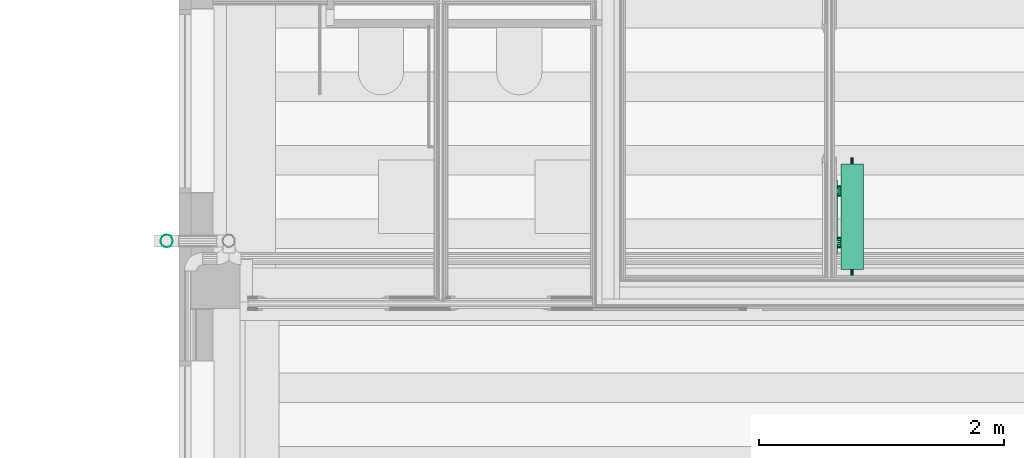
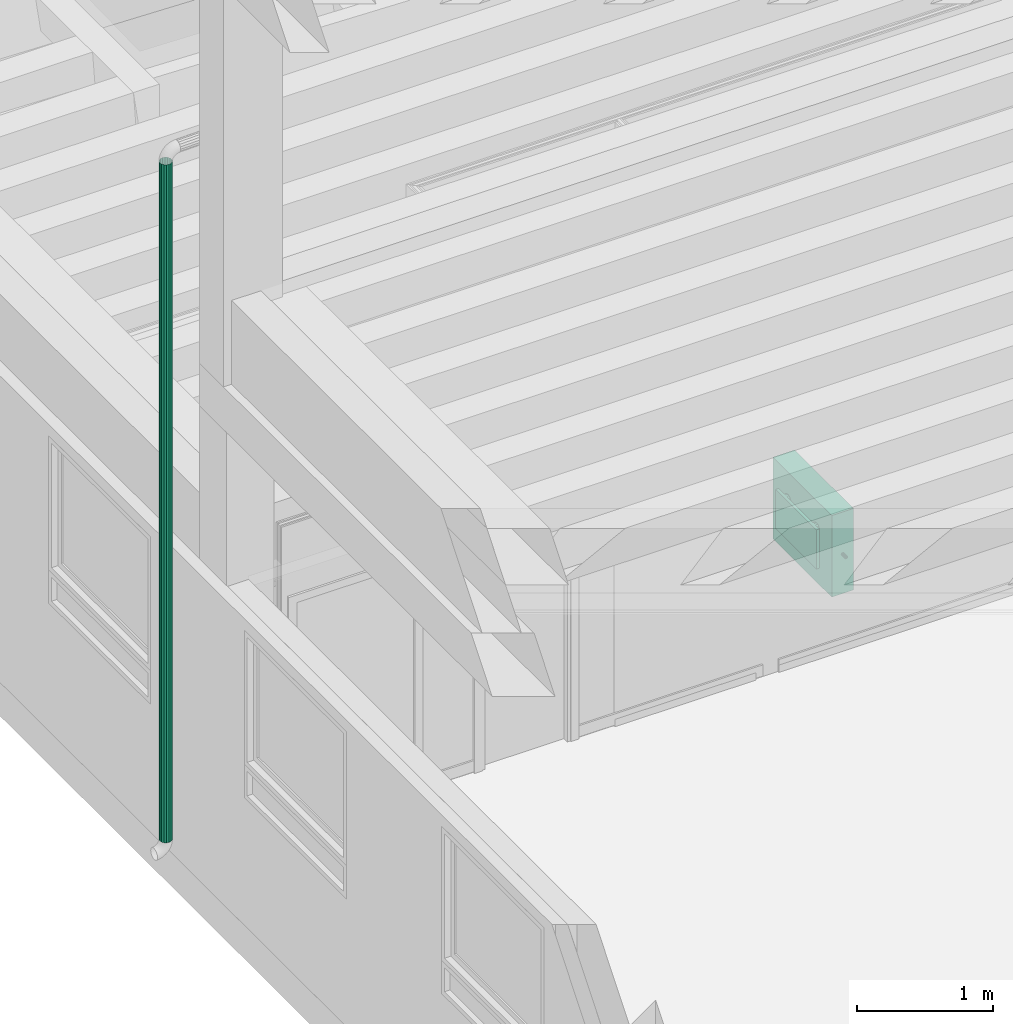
# One storey, part 48 of 108: 1 flow segment, 1 flow terminal.
"""IFC2X3 building model written with IfcOpenShell, lengths in metres."""

from ifc_helpers import new_model, entity, si_unit, converted_unit, derived_unit, money_unit, direction, frame, origin_with_axes, place, context, subcontext, project, spatial, open_shell, faceted_brep, surface_model, material, type_object, element, save


model = new_model("IFC2X3")

# Units and contexts
model_context = context("Model", 3, precision=1e-05, world=origin_with_axes(), true_north=direction((0.0, 1.0)))
body_context = subcontext(model_context, "Body", "Model", "MODEL_VIEW", scale=1.0)
ifc_project = project(units=[si_unit("LENGTHUNIT", "METRE"), si_unit("AREAUNIT", "SQUARE_METRE"), si_unit("VOLUMEUNIT", "CUBIC_METRE"), si_unit("ABSORBEDDOSEUNIT", "GRAY"), si_unit("AMOUNTOFSUBSTANCEUNIT", "MOLE"), si_unit("DOSEEQUIVALENTUNIT", "SIEVERT"), si_unit("ELECTRICCAPACITANCEUNIT", "FARAD"), si_unit("ELECTRICCHARGEUNIT", "COULOMB"), si_unit("ELECTRICCONDUCTANCEUNIT", "SIEMENS"), si_unit("ELECTRICCURRENTUNIT", "AMPERE"), si_unit("ELECTRICRESISTANCEUNIT", "OHM"), si_unit("ELECTRICVOLTAGEUNIT", "VOLT"), si_unit("ENERGYUNIT", "JOULE"), si_unit("FORCEUNIT", "NEWTON"), si_unit("FREQUENCYUNIT", "HERTZ"), si_unit("ILLUMINANCEUNIT", "LUX"), si_unit("INDUCTANCEUNIT", "HENRY"), si_unit("LUMINOUSFLUXUNIT", "LUMEN"), si_unit("LUMINOUSINTENSITYUNIT", "CANDELA"), si_unit("MAGNETICFLUXDENSITYUNIT", "TESLA"), si_unit("MAGNETICFLUXUNIT", "WEBER"), si_unit("MASSUNIT", "GRAM"), converted_unit("PLANEANGLEUNIT", "degree", entity("IfcReal", 0.0174532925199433), si_unit("PLANEANGLEUNIT", "RADIAN"), dimensions=[0, 0, 0, 0, 0, 0, 0]), si_unit("POWERUNIT", "WATT"), si_unit("PRESSUREUNIT", "PASCAL"), si_unit("RADIOACTIVITYUNIT", "BECQUEREL"), si_unit("SOLIDANGLEUNIT", "STERADIAN"), si_unit("THERMODYNAMICTEMPERATUREUNIT", "KELVIN"), si_unit("TIMEUNIT", "SECOND"), derived_unit("ACCELERATIONUNIT", [(si_unit("LENGTHUNIT", "METRE"), 1), (si_unit("TIMEUNIT", "SECOND"), -2)]), derived_unit("ANGULARVELOCITYUNIT", [(converted_unit("PLANEANGLEUNIT", "degree", entity("IfcReal", 0.0174532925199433), si_unit("PLANEANGLEUNIT", "RADIAN"), dimensions=[0, 0, 0, 0, 0, 0, 0]), 1), (si_unit("TIMEUNIT", "SECOND"), -1)]), derived_unit("CURVATUREUNIT", [(converted_unit("PLANEANGLEUNIT", "degree", entity("IfcReal", 0.0174532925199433), si_unit("PLANEANGLEUNIT", "RADIAN"), dimensions=[0, 0, 0, 0, 0, 0, 0]), 1), (si_unit("LENGTHUNIT", "METRE"), -1)]), derived_unit("DYNAMICVISCOSITYUNIT", [(si_unit("PRESSUREUNIT", "PASCAL"), 1), (si_unit("TIMEUNIT", "SECOND"), 1)]), derived_unit("HEATFLUXDENSITYUNIT", [(si_unit("POWERUNIT", "WATT"), 1), (si_unit("LENGTHUNIT", "METRE"), -2)]), derived_unit("HEATINGVALUEUNIT", [(si_unit("ENERGYUNIT", "JOULE"), 1), (si_unit("MASSUNIT", "GRAM"), -1)]), derived_unit("INTEGERCOUNTRATEUNIT", [(si_unit("TIMEUNIT", "SECOND"), -1)]), derived_unit("IONCONCENTRATIONUNIT", [(si_unit("MASSUNIT", "GRAM"), 1), (si_unit("VOLUMEUNIT", "CUBIC_METRE"), -1)]), derived_unit("ISOTHERMALMOISTURECAPACITYUNIT", [(si_unit("VOLUMEUNIT", "CUBIC_METRE"), 1), (si_unit("MASSUNIT", "GRAM"), -1)]), derived_unit("KINEMATICVISCOSITYUNIT", [(si_unit("AREAUNIT", "SQUARE_METRE"), 1), (si_unit("TIMEUNIT", "SECOND"), -1)]), derived_unit("LINEARFORCEUNIT", [(si_unit("FORCEUNIT", "NEWTON"), 1), (si_unit("LENGTHUNIT", "METRE"), -1)]), derived_unit("LINEARMOMENTUNIT", [(si_unit("FORCEUNIT", "NEWTON"), 1), (si_unit("LENGTHUNIT", "METRE"), -1)]), derived_unit("LINEARSTIFFNESSUNIT", [(si_unit("FORCEUNIT", "NEWTON"), 1), (si_unit("LENGTHUNIT", "METRE"), -1)]), derived_unit("LINEARVELOCITYUNIT", [(si_unit("LENGTHUNIT", "METRE"), 1), (si_unit("TIMEUNIT", "SECOND"), -1)]), derived_unit("LUMINOUSINTENSITYDISTRIBUTIONUNIT", [(si_unit("LUMINOUSINTENSITYUNIT", "CANDELA"), 1), (si_unit("LUMINOUSFLUXUNIT", "LUMEN"), -1)]), derived_unit("MASSDENSITYUNIT", [(si_unit("MASSUNIT", "GRAM"), 1), (si_unit("VOLUMEUNIT", "CUBIC_METRE"), -1)]), derived_unit("MASSFLOWRATEUNIT", [(si_unit("MASSUNIT", "GRAM"), 1), (si_unit("TIMEUNIT", "SECOND"), -1)]), derived_unit("MASSPERLENGTHUNIT", [(si_unit("MASSUNIT", "GRAM"), 1), (si_unit("LENGTHUNIT", "METRE"), -1)]), derived_unit("MODULUSOFELASTICITYUNIT", [(si_unit("FORCEUNIT", "NEWTON"), 1), (si_unit("AREAUNIT", "SQUARE_METRE"), -1)]), derived_unit("MODULUSOFLINEARSUBGRADEREACTIONUNIT", [(si_unit("FORCEUNIT", "NEWTON"), 1), (si_unit("LENGTHUNIT", "METRE"), -2)]), derived_unit("MODULUSOFROTATIONALSUBGRADEREACTIONUNIT", [(si_unit("FORCEUNIT", "NEWTON"), 1), (si_unit("LENGTHUNIT", "METRE"), 1)]), derived_unit("MODULUSOFSUBGRADEREACTIONUNIT", [(si_unit("FORCEUNIT", "NEWTON"), 1), (si_unit("VOLUMEUNIT", "CUBIC_METRE"), -1)]), derived_unit("MOISTUREDIFFUSIVITYUNIT", [(si_unit("VOLUMEUNIT", "CUBIC_METRE"), 1), (si_unit("TIMEUNIT", "SECOND"), -1)]), derived_unit("MOLECULARWEIGHTUNIT", [(si_unit("MASSUNIT", "GRAM"), 1), (si_unit("AMOUNTOFSUBSTANCEUNIT", "MOLE"), -1)]), derived_unit("PLANARFORCEUNIT", [(si_unit("FORCEUNIT", "NEWTON"), 1), (si_unit("LENGTHUNIT", "METRE"), -2)]), derived_unit("ROTATIONALFREQUENCYUNIT", [(si_unit("TIMEUNIT", "SECOND"), -1)]), derived_unit("ROTATIONALMASSUNIT", [(si_unit("MASSUNIT", "GRAM"), 1), (si_unit("LENGTHUNIT", "METRE"), 2)]), derived_unit("ROTATIONALSTIFFNESSUNIT", [(si_unit("FORCEUNIT", "NEWTON"), 1), (si_unit("LENGTHUNIT", "METRE"), 1), (converted_unit("PLANEANGLEUNIT", "degree", entity("IfcReal", 0.0174532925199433), si_unit("PLANEANGLEUNIT", "RADIAN"), dimensions=[0, 0, 0, 0, 0, 0, 0]), -1)]), derived_unit("SECTIONAREAINTEGRALUNIT", [(si_unit("LENGTHUNIT", "METRE"), 5)]), derived_unit("SECTIONMODULUSUNIT", [(si_unit("LENGTHUNIT", "METRE"), 3)]), derived_unit("SHEARMODULUSUNIT", [(si_unit("FORCEUNIT", "NEWTON"), 1), (si_unit("AREAUNIT", "SQUARE_METRE"), -1)]), derived_unit("SOUNDPOWERUNIT", [(si_unit("ENERGYUNIT", "JOULE"), 1), (si_unit("TIMEUNIT", "SECOND"), -1)]), derived_unit("SPECIFICHEATCAPACITYUNIT", [(si_unit("FORCEUNIT", "NEWTON"), 1), (si_unit("MASSUNIT", "GRAM"), -1), (si_unit("THERMODYNAMICTEMPERATUREUNIT", "KELVIN"), -1)]), derived_unit("TEMPERATUREGRADIENTUNIT", [(si_unit("THERMODYNAMICTEMPERATUREUNIT", "KELVIN"), 1), (si_unit("LENGTHUNIT", "METRE"), -1)]), derived_unit("THERMALADMITTANCEUNIT", [(si_unit("POWERUNIT", "WATT"), 1), (si_unit("AREAUNIT", "SQUARE_METRE"), -1), (si_unit("THERMODYNAMICTEMPERATUREUNIT", "KELVIN"), -1)]), derived_unit("THERMALCONDUCTANCEUNIT", [(si_unit("POWERUNIT", "WATT"), 1), (si_unit("LENGTHUNIT", "METRE"), -1), (si_unit("THERMODYNAMICTEMPERATUREUNIT", "KELVIN"), -1)]), derived_unit("THERMALEXPANSIONCOEFFICIENTUNIT", [(si_unit("THERMODYNAMICTEMPERATUREUNIT", "KELVIN"), -1)]), derived_unit("THERMALRESISTANCEUNIT", [(si_unit("AREAUNIT", "SQUARE_METRE"), 1), (si_unit("POWERUNIT", "WATT"), -1)]), derived_unit("THERMALTRANSMITTANCEUNIT", [(si_unit("POWERUNIT", "WATT"), 1), (si_unit("AREAUNIT", "SQUARE_METRE"), -1), (si_unit("THERMODYNAMICTEMPERATUREUNIT", "KELVIN"), -1)]), derived_unit("TORQUEUNIT", [(si_unit("FORCEUNIT", "NEWTON"), 1), (si_unit("LENGTHUNIT", "METRE"), 1)]), derived_unit("VAPORPERMEABILITYUNIT", [(si_unit("MASSUNIT", "GRAM"), 1), (si_unit("TIMEUNIT", "SECOND"), -1)]), derived_unit("VOLUMETRICFLOWRATEUNIT", [(si_unit("VOLUMEUNIT", "CUBIC_METRE"), 1), (si_unit("TIMEUNIT", "SECOND"), -1)]), derived_unit("WARPINGCONSTANTUNIT", [(si_unit("LENGTHUNIT", "METRE"), 6)]), derived_unit("WARPINGMOMENTUNIT", [(si_unit("FORCEUNIT", "NEWTON"), 1), (si_unit("LENGTHUNIT", "METRE"), 2)]), money_unit("GBP")], contexts=[model_context])

# Site, building, storey
site_placement = place(None, origin_with_axes())
site = spatial("IfcSite", under=ifc_project, at=site_placement, Name="Site", CompositionType="ELEMENT")
building_placement = place(site_placement, origin_with_axes())
building = spatial("IfcBuilding", under=site, at=building_placement, Name="Building01", CompositionType="ELEMENT")
storey_placement = place(building_placement, origin_with_axes())
storey = spatial("IfcBuildingStorey", under=building, at=storey_placement, Name="GF", CompositionType="ELEMENT", Elevation=0.0)

# Flow segment
ifc_material_1 = material(Name="M_BSUK_ColdWater")
pipe_segment_type = type_object("IfcPipeSegmentType", Name="M-BmpStraightpipe-DefaultPipe", PredefinedType="RIGIDSEGMENT")
flow_segment_placement = place(storey_placement, frame((-0.099373, 14.95, 6.139513), z_axis=(0.0, -1.0, 0.0), x_axis=(0.0, 0.0, -1.0)))
element("IfcFlowSegment", 1, at=flow_segment_placement, inside=storey, type_object=pipe_segment_type, material=ifc_material_1, Name="M-BmpStraightpipe-DefaultPipe", ObjectType="M-BmpStraightpipe-DefaultPipe", context=body_context, shape_type="Brep", body=[
    faceted_brep([(6.071429, 0.0, -0.05), (0.0, 0.0, -0.05), (0.0, 0.019134, -0.046194), (6.071429, 0.019134, -0.046194), (0.0, 0.035355, -0.035355), (6.071429, 0.035355, -0.035355), (0.0, 0.046194, -0.019134), (6.071429, 0.046194, -0.019134), (0.0, 0.05, 0.0), (6.071429, 0.05, 0.0), (0.0, 0.046194, 0.019134), (6.071429, 0.046194, 0.019134), (0.0, 0.035355, 0.035355), (6.071429, 0.035355, 0.035355), (0.0, 0.019134, 0.046194), (6.071429, 0.019134, 0.046194), (0.0, 0.0, 0.05), (6.071429, 0.0, 0.05), (0.0, -0.019134, 0.046194), (6.071429, -0.019134, 0.046194), (0.0, -0.035355, 0.035355), (6.071429, -0.035355, 0.035355), (0.0, -0.046194, 0.019134), (6.071429, -0.046194, 0.019134), (0.0, -0.05, 0.0), (6.071429, -0.05, 0.0), (0.0, -0.046194, -0.019134), (6.071429, -0.046194, -0.019134), (0.0, -0.035355, -0.035355), (6.071429, -0.035355, -0.035355), (0.0, -0.019134, -0.046194), (6.071429, -0.019134, -0.046194)], [[[0, 1, 2, 3]], [[3, 2, 4, 5]], [[5, 4, 6, 7]], [[7, 6, 8, 9]], [[9, 8, 10, 11]], [[11, 10, 12, 13]], [[13, 12, 14, 15]], [[15, 14, 16, 17]], [[17, 16, 18, 19]], [[19, 18, 20, 21]], [[21, 20, 22, 23]], [[23, 22, 24, 25]], [[25, 24, 26, 27]], [[27, 26, 28, 29]], [[29, 28, 30, 31]], [[31, 30, 1, 0]]]),
])

# Space
space_placement = place(storey_placement, frame((8.552822, 20.936203, 0.217025), z_axis=(0.0, 0.0, 1.0), x_axis=(-0.99931258, 0.03707243, 0.0)))
space = spatial("IfcSpace", under=storey, at=space_placement, Name="01", CompositionType="ELEMENT", InteriorOrExteriorSpace="NOTDEFINED")

# Flow terminal
ifc_material_2 = material(Name="M_BSUK_Ventilation")
space_heater_type = type_object("IfcSpaceHeaterType", Name="M-BmvRadiatorpanel-Panel", PredefinedType="NOTDEFINED")
flow_terminal_placement = place(storey_placement, frame((5.499506, 14.715033, 0.813), z_axis=(0.0, 0.0, 1.0), x_axis=(0.0, 1.0, 0.0)))
element("IfcFlowTerminal", 2, at=flow_terminal_placement, inside=space, type_object=space_heater_type, material=ifc_material_2, Name="M-BmvRadiatorpanel-Panel", ObjectType="M-BmvRadiatorpanel-Panel", context=body_context, shape_type="SurfaceModel", body=[
    surface_model("IfcShellBasedSurfaceModel", [(0.865, -0.0925, 0.365), (0.865, 0.0925, 0.365), (0.0, 0.0925, 0.365), (0.0, -0.0925, 0.365), (0.865, -0.0925, -0.365), (0.865, 0.0925, -0.365), (0.0, -0.0925, -0.365), (0.0, 0.0925, -0.365), (0.1325, 0.12025, 0.175), (0.7325, 0.12025, 0.175), (0.7325, 0.14525, 0.175), (0.1325, 0.14525, 0.175), (0.7325, 0.14525, -0.175), (0.1325, 0.14525, -0.175), (0.7325, 0.12025, -0.175), (0.1325, 0.12025, -0.175), (0.2225, 0.0925, 0.0775), (0.2225, 0.12025, 0.0775), (0.239721, 0.12025, 0.080925), (0.239721, 0.0925, 0.080925), (0.25432, 0.12025, 0.09068), (0.25432, 0.0925, 0.09068), (0.264075, 0.12025, 0.105279), (0.264075, 0.0925, 0.105279), (0.2675, 0.12025, 0.1225), (0.2675, 0.0925, 0.1225), (0.264075, 0.12025, 0.139721), (0.264075, 0.0925, 0.139721), (0.25432, 0.12025, 0.15432), (0.25432, 0.0925, 0.15432), (0.239721, 0.12025, 0.164075), (0.239721, 0.0925, 0.164075), (0.2225, 0.12025, 0.1675), (0.2225, 0.0925, 0.1675), (0.205279, 0.12025, 0.164075), (0.205279, 0.0925, 0.164075), (0.19068, 0.12025, 0.15432), (0.19068, 0.0925, 0.15432), (0.180925, 0.12025, 0.139721), (0.180925, 0.0925, 0.139721), (0.1775, 0.12025, 0.1225), (0.1775, 0.0925, 0.1225), (0.180925, 0.12025, 0.105279), (0.180925, 0.0925, 0.105279), (0.19068, 0.12025, 0.09068), (0.19068, 0.0925, 0.09068), (0.205279, 0.12025, 0.080925), (0.205279, 0.0925, 0.080925), (0.6425, 0.0925, 0.0775), (0.6425, 0.12025, 0.0775), (0.659721, 0.12025, 0.080925), (0.659721, 0.0925, 0.080925), (0.67432, 0.12025, 0.09068), (0.67432, 0.0925, 0.09068), (0.684075, 0.12025, 0.105279), (0.684075, 0.0925, 0.105279), (0.6875, 0.12025, 0.1225), (0.6875, 0.0925, 0.1225), (0.684075, 0.12025, 0.139721), (0.684075, 0.0925, 0.139721), (0.67432, 0.12025, 0.15432), (0.67432, 0.0925, 0.15432), (0.659721, 0.12025, 0.164075), (0.659721, 0.0925, 0.164075), (0.6425, 0.12025, 0.1675), (0.6425, 0.0925, 0.1675), (0.625279, 0.12025, 0.164075), (0.625279, 0.0925, 0.164075), (0.61068, 0.12025, 0.15432), (0.61068, 0.0925, 0.15432), (0.600925, 0.12025, 0.139721), (0.600925, 0.0925, 0.139721), (0.5975, 0.12025, 0.1225), (0.5975, 0.0925, 0.1225), (0.600925, 0.12025, 0.105279), (0.600925, 0.0925, 0.105279), (0.61068, 0.12025, 0.09068), (0.61068, 0.0925, 0.09068), (0.625279, 0.12025, 0.080925), (0.625279, 0.0925, 0.080925), (-0.05, 0.0, -0.0225), (0.0, 0.0, -0.0225), (0.0, -0.004784, -0.021548), (-0.05, -0.004784, -0.021548), (0.0, -0.008839, -0.018839), (-0.05, -0.008839, -0.018839), (0.0, -0.011548, -0.014784), (-0.05, -0.011548, -0.014784), (0.0, -0.0125, -0.01), (-0.05, -0.0125, -0.01), (0.0, -0.011548, -0.005216), (-0.05, -0.011548, -0.005216), (0.0, -0.008839, -0.001161), (-0.05, -0.008839, -0.001161), (0.0, -0.004784, 0.001548), (-0.05, -0.004784, 0.001548), (0.0, 0.0, 0.0025), (-0.05, 0.0, 0.0025), (0.0, 0.004784, 0.001548), (-0.05, 0.004784, 0.001548), (0.0, 0.008839, -0.001161), (-0.05, 0.008839, -0.001161), (0.0, 0.011548, -0.005216), (-0.05, 0.011548, -0.005216), (0.0, 0.0125, -0.01), (-0.05, 0.0125, -0.01), (0.0, 0.011548, -0.014784), (-0.05, 0.011548, -0.014784), (0.0, 0.008839, -0.018839), (-0.05, 0.008839, -0.018839), (0.0, 0.004784, -0.021548), (-0.05, 0.004784, -0.021548), (0.915, 0.0, 0.2525), (0.865, 0.0, 0.2525), (0.865, 0.004784, 0.253452), (0.915, 0.004784, 0.253452), (0.865, 0.008839, 0.256161), (0.915, 0.008839, 0.256161), (0.865, 0.011548, 0.260216), (0.915, 0.011548, 0.260216), (0.865, 0.0125, 0.265), (0.915, 0.0125, 0.265), (0.865, 0.011548, 0.269784), (0.915, 0.011548, 0.269784), (0.865, 0.008839, 0.273839), (0.915, 0.008839, 0.273839), (0.865, 0.004784, 0.276548), (0.915, 0.004784, 0.276548), (0.865, 0.0, 0.2775), (0.915, 0.0, 0.2775), (0.865, -0.004784, 0.276548), (0.915, -0.004784, 0.276548), (0.865, -0.008839, 0.273839), (0.915, -0.008839, 0.273839), (0.865, -0.011548, 0.269784), (0.915, -0.011548, 0.269784), (0.865, -0.0125, 0.265), (0.915, -0.0125, 0.265), (0.865, -0.011548, 0.260216), (0.915, -0.011548, 0.260216), (0.865, -0.008839, 0.256161), (0.915, -0.008839, 0.256161), (0.865, -0.004784, 0.253452), (0.915, -0.004784, 0.253452)], [open_shell([[[0, 1, 2, 3]], [[4, 5, 1, 0]], [[6, 7, 5, 4]], [[3, 2, 7, 6]], [[1, 5, 7, 2]], [[3, 6, 4, 0]], [[8, 9, 10, 11]], [[11, 10, 12, 13]], [[13, 12, 14, 15]], [[15, 14, 9, 8]], [[9, 14, 12, 10]], [[11, 13, 15, 8]], [[16, 17, 18, 19]], [[19, 18, 20, 21]], [[21, 20, 22, 23]], [[23, 22, 24, 25]], [[25, 24, 26, 27]], [[27, 26, 28, 29]], [[29, 28, 30, 31]], [[31, 30, 32, 33]], [[33, 32, 34, 35]], [[35, 34, 36, 37]], [[37, 36, 38, 39]], [[39, 38, 40, 41]], [[41, 40, 42, 43]], [[43, 42, 44, 45]], [[45, 44, 46, 47]], [[47, 46, 17, 16]], [[48, 49, 50, 51]], [[51, 50, 52, 53]], [[53, 52, 54, 55]], [[55, 54, 56, 57]], [[57, 56, 58, 59]], [[59, 58, 60, 61]], [[61, 60, 62, 63]], [[63, 62, 64, 65]], [[65, 64, 66, 67]], [[67, 66, 68, 69]], [[69, 68, 70, 71]], [[71, 70, 72, 73]], [[73, 72, 74, 75]], [[75, 74, 76, 77]], [[77, 76, 78, 79]], [[79, 78, 49, 48]], [[80, 81, 82, 83]], [[83, 82, 84, 85]], [[85, 84, 86, 87]], [[87, 86, 88, 89]], [[89, 88, 90, 91]], [[91, 90, 92, 93]], [[93, 92, 94, 95]], [[95, 94, 96, 97]], [[97, 96, 98, 99]], [[99, 98, 100, 101]], [[101, 100, 102, 103]], [[103, 102, 104, 105]], [[105, 104, 106, 107]], [[107, 106, 108, 109]], [[109, 108, 110, 111]], [[111, 110, 81, 80]], [[112, 113, 114, 115]], [[115, 114, 116, 117]], [[117, 116, 118, 119]], [[119, 118, 120, 121]], [[121, 120, 122, 123]], [[123, 122, 124, 125]], [[125, 124, 126, 127]], [[127, 126, 128, 129]], [[129, 128, 130, 131]], [[131, 130, 132, 133]], [[133, 132, 134, 135]], [[135, 134, 136, 137]], [[137, 136, 138, 139]], [[139, 138, 140, 141]], [[141, 140, 142, 143]], [[143, 142, 113, 112]]])]),
])

save(model, "model.ifc")
